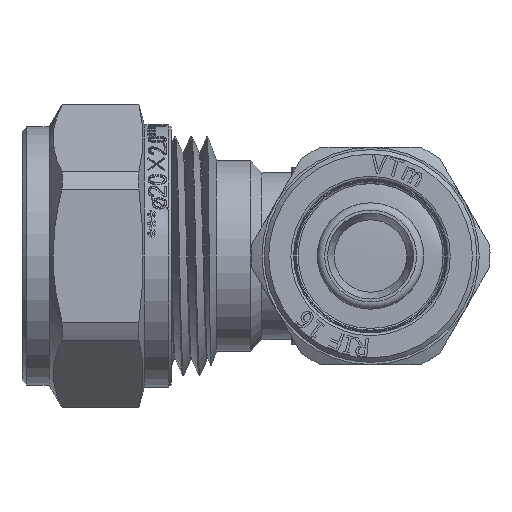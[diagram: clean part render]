
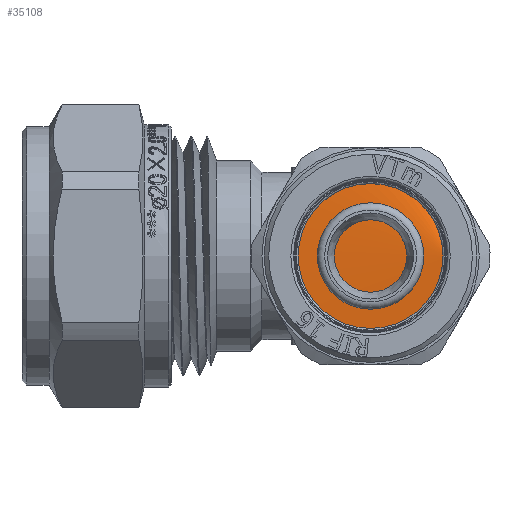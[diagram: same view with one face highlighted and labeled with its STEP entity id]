
A CAD part, left-side view. The second image highlights one B-rep face of the part: STEP entity #35108.
In plain terms, the highlighted cylindrical face has radius 8.7 mm (diameter 17.4 mm), a full revolution.
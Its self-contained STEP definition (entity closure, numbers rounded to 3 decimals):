
#1216=B_SPLINE_CURVE_WITH_KNOTS('',3,(#45305,#45306,#45307,#45308,#45309,
#45310,#45311,#45312,#45313,#45314,#45315,#45316,#45317,#45318,#45319,#45320,
#45321),.UNSPECIFIED.,.F.,.F.,(4,1,1,1,1,1,1,1,1,1,1,1,1,1,4),(9.425,
9.7,10.193,10.685,11.178,11.67,
12.163,12.656,13.148,13.641,14.133,
14.626,15.118,15.611,15.708),
 .UNSPECIFIED.);
#3451=CYLINDRICAL_SURFACE('',#37156,8.7);
#4453=FACE_OUTER_BOUND('',#6464,.T.);
#6464=EDGE_LOOP('',(#23835,#23836,#23837));
#8645=LINE('',#45302,#11058);
#8646=LINE('',#45304,#11059);
#11058=VECTOR('',#39063,8.7);
#11059=VECTOR('',#39064,8.7);
#14398=VERTEX_POINT('',#45300);
#14399=VERTEX_POINT('',#45301);
#14400=VERTEX_POINT('',#45303);
#18191=EDGE_CURVE('',#14398,#14399,#8645,.T.);
#18192=EDGE_CURVE('',#14400,#14398,#8646,.T.);
#18193=EDGE_CURVE('',#14400,#14399,#1216,.T.);
#23835=ORIENTED_EDGE('',*,*,#18191,.F.);
#23836=ORIENTED_EDGE('',*,*,#18192,.F.);
#23837=ORIENTED_EDGE('',*,*,#18193,.T.);
#35108=ADVANCED_FACE('',(#4453),#3451,.T.);
#37156=AXIS2_PLACEMENT_3D('',#45299,#39061,#39062);
#39061=DIRECTION('center_axis',(1.,0.,0.));
#39062=DIRECTION('ref_axis',(0.,1.,0.));
#39063=DIRECTION('',(1.,0.,0.));
#39064=DIRECTION('',(1.,0.,0.));
#45299=CARTESIAN_POINT('Origin',(-26.35,0.,
0.));
#45300=CARTESIAN_POINT('',(-23.6,-8.7,0.));
#45301=CARTESIAN_POINT('',(-21.9,-8.7,0.));
#45302=CARTESIAN_POINT('',(-26.35,-8.7,0.));
#45303=CARTESIAN_POINT('',(-23.7,-8.7,0.));
#45304=CARTESIAN_POINT('',(-26.35,-8.7,0.));
#45305=CARTESIAN_POINT('Ctrl Pts',(-23.7,-8.699,0.));
#45306=CARTESIAN_POINT('Ctrl Pts',(-23.674,-8.699,
-0.799));
#45307=CARTESIAN_POINT('Ctrl Pts',(-23.6,-8.395,
-3.026));
#45308=CARTESIAN_POINT('Ctrl Pts',(-23.48,-6.517,
-6.293));
#45309=CARTESIAN_POINT('Ctrl Pts',(-23.339,-2.766,-8.627));
#45310=CARTESIAN_POINT('Ctrl Pts',(-23.198,1.642,-8.91));
#45311=CARTESIAN_POINT('Ctrl Pts',(-23.057,5.66,-7.074));
#45312=CARTESIAN_POINT('Ctrl Pts',(-22.916,8.333,-3.556));
#45313=CARTESIAN_POINT('Ctrl Pts',(-22.774,9.024,0.807));
#45314=CARTESIAN_POINT('Ctrl Pts',(-22.633,7.569,4.978));
#45315=CARTESIAN_POINT('Ctrl Pts',(-22.492,4.315,7.966));
#45316=CARTESIAN_POINT('Ctrl Pts',(-22.351,0.035,
9.06));
#45317=CARTESIAN_POINT('Ctrl Pts',(-22.21,-4.253,
7.999));
#45318=CARTESIAN_POINT('Ctrl Pts',(-22.069,-7.53,5.037));
#45319=CARTESIAN_POINT('Ctrl Pts',(-21.966,-8.619,
1.991));
#45320=CARTESIAN_POINT('Ctrl Pts',(-21.909,-8.7,
0.281));
#45321=CARTESIAN_POINT('Ctrl Pts',(-21.9,-8.7,0.));
